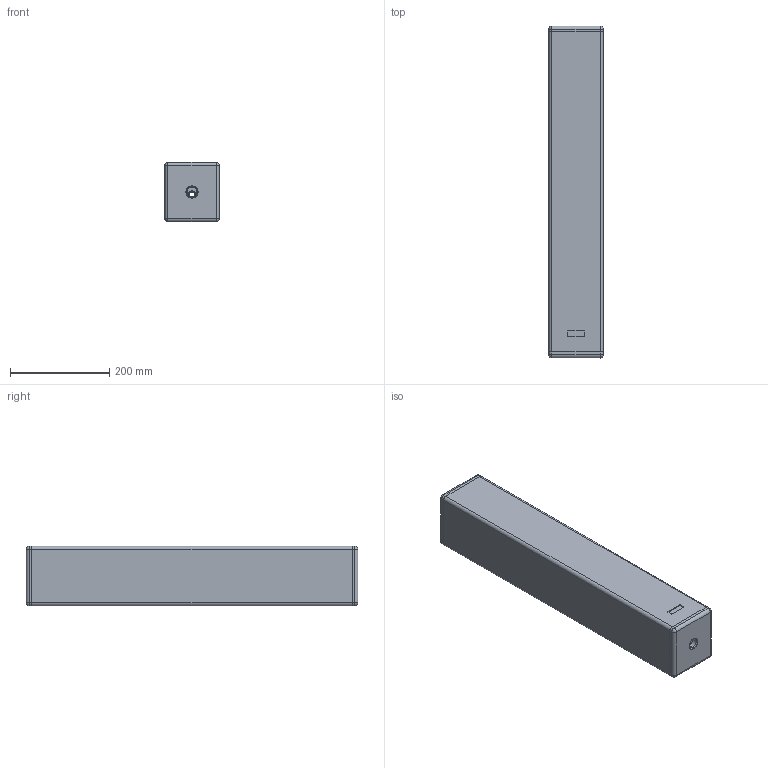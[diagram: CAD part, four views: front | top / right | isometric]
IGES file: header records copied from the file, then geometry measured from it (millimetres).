
Start section: SolidWorks IGES file using analytic representation for surfaces
Global section: file name: C:\Documents and Settings\Administrator\My Documents\Michl\SolidWorks\3d_Dateien_Homepage\Neue-Produkte\SEEBURG_Monopod-L8i.IGS; native system: SolidWorks 2009; preprocessor: SolidWorks 2009; author: Administrator; date: 140404.090428; units: millimetre
Bounding box: 110 x 670 x 120 mm (x, y, z)
Surface area: 575139.1 mm2 (no closed solid volume)
Topology: 0 solids, 0 shells, 109 faces, 1000 edges, 998 vertices
Faces by surface type: bspline 55, revolution 54
